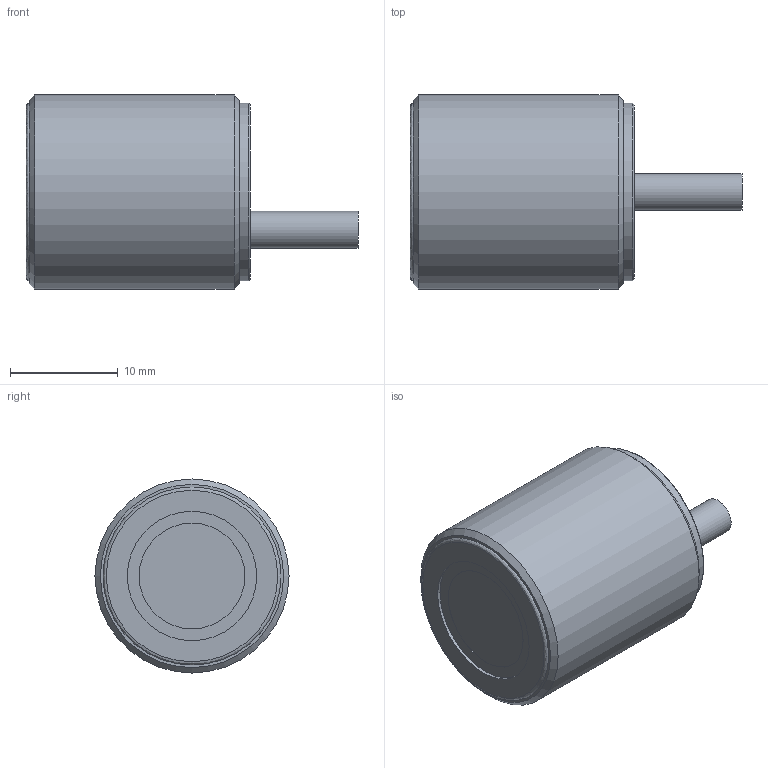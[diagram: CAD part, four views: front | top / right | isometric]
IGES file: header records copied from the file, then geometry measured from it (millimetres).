
Global section: file name: No Iges File Name specified; native system: AutoDesk Inventor R6.1; preprocessor: AutoDesk Inventor Iges Exporter R6.1; author: No Author specified; organization: No Organization specified; date: 20050810.113649; units: millimetre
Bounding box: 30.8 x 18 x 18 mm (x, y, z)
Surface area: 1789.1 mm2 (no closed solid volume)
Topology: 0 solids, 0 shells, 21 faces, 63 edges, 54 vertices
Faces by surface type: plane 12, revolution 9
